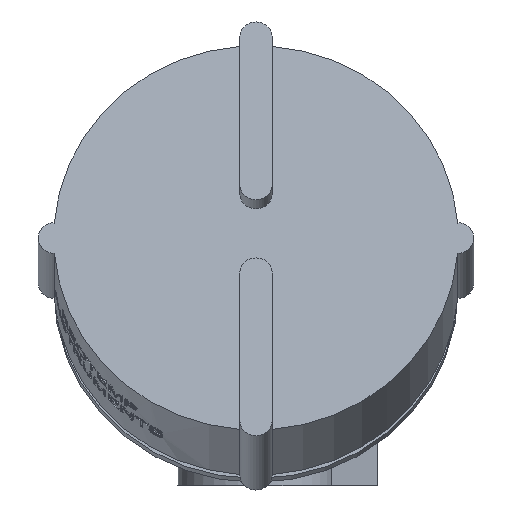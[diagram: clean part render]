
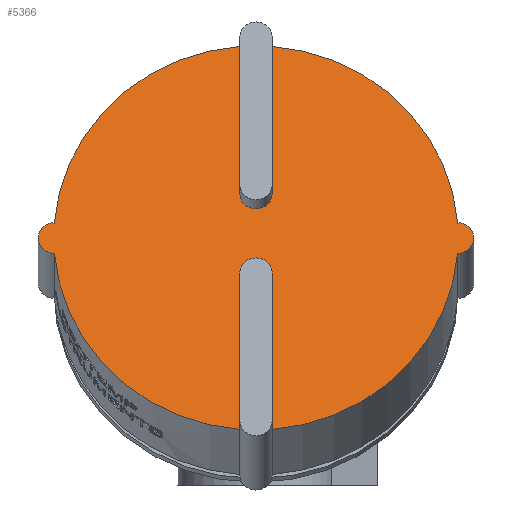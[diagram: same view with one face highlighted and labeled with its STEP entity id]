
A CAD part, top view. The second image highlights one B-rep face of the part: STEP entity #5366.
In plain terms, the highlighted planar face has unit normal (0, 0.312, 0.95).
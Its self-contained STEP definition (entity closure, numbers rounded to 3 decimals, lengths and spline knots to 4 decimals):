
#719=LINE($,#32454,#1073);
#724=LINE($,#32467,#1078);
#727=LINE($,#32477,#1081);
#732=LINE($,#32490,#1086);
#1073=VECTOR($,#6588,1.2896);
#1078=VECTOR($,#6601,1.2896);
#1081=VECTOR($,#6610,1.2896);
#1086=VECTOR($,#6623,1.2896);
#1331=PLANE($,#5719);
#1690=FACE_OUTER_BOUND($,#2043,.T.);
#2043=EDGE_LOOP($,(#4999,#5000,#5001,#5002,#5003,#5004,#5005,#5006,#5007,
#5008,#5009,#5010));
#2160=CIRCLE($,#5653,1.685);
#2163=CIRCLE($,#5661,0.135);
#2166=CIRCLE($,#5668,0.135);
#2186=CIRCLE($,#5707,1.685);
#2187=CIRCLE($,#5710,1.685);
#2188=CIRCLE($,#5712,0.135);
#2189=CIRCLE($,#5714,1.685);
#2190=CIRCLE($,#5718,0.135);
#2658=VERTEX_POINT($,#32437);
#2659=VERTEX_POINT($,#32438);
#2664=VERTEX_POINT($,#32452);
#2666=VERTEX_POINT($,#32459);
#2668=VERTEX_POINT($,#32465);
#2671=VERTEX_POINT($,#32474);
#2672=VERTEX_POINT($,#32476);
#2674=VERTEX_POINT($,#32482);
#2676=VERTEX_POINT($,#32488);
#2702=VERTEX_POINT($,#32604);
#2703=VERTEX_POINT($,#32611);
#2704=VERTEX_POINT($,#32615);
#3406=EDGE_CURVE($,#2658,#2659,#2160,.T.);
#3412=EDGE_CURVE($,#2658,#2664,#719,.T.);
#3416=EDGE_CURVE($,#2664,#2666,#2163,.T.);
#3419=EDGE_CURVE($,#2666,#2668,#724,.T.);
#3423=EDGE_CURVE($,#2672,#2671,#727,.T.);
#3427=EDGE_CURVE($,#2671,#2674,#2166,.T.);
#3430=EDGE_CURVE($,#2674,#2676,#732,.T.);
#3468=EDGE_CURVE($,#2702,#2676,#2186,.T.);
#3472=EDGE_CURVE($,#2672,#2703,#2187,.T.);
#3474=EDGE_CURVE($,#2703,#2704,#2188,.T.);
#3476=EDGE_CURVE($,#2704,#2668,#2189,.T.);
#3478=EDGE_CURVE($,#2659,#2702,#2190,.T.);
#4999=ORIENTED_EDGE($,*,*,#3419,.T.);
#5000=ORIENTED_EDGE($,*,*,#3476,.F.);
#5001=ORIENTED_EDGE($,*,*,#3474,.F.);
#5002=ORIENTED_EDGE($,*,*,#3472,.F.);
#5003=ORIENTED_EDGE($,*,*,#3423,.T.);
#5004=ORIENTED_EDGE($,*,*,#3427,.T.);
#5005=ORIENTED_EDGE($,*,*,#3430,.T.);
#5006=ORIENTED_EDGE($,*,*,#3468,.F.);
#5007=ORIENTED_EDGE($,*,*,#3478,.F.);
#5008=ORIENTED_EDGE($,*,*,#3406,.F.);
#5009=ORIENTED_EDGE($,*,*,#3412,.T.);
#5010=ORIENTED_EDGE($,*,*,#3416,.T.);
#5366=ADVANCED_FACE($,(#1690),#1331,.T.);
#5653=AXIS2_PLACEMENT_3D($,#32439,#6572,#6573);
#5661=AXIS2_PLACEMENT_3D($,#32461,#6595,#6596);
#5668=AXIS2_PLACEMENT_3D($,#32484,#6617,#6618);
#5707=AXIS2_PLACEMENT_3D($,#32605,#6712,#6713);
#5710=AXIS2_PLACEMENT_3D($,#32612,#6721,#6722);
#5712=AXIS2_PLACEMENT_3D($,#32616,#6726,#6727);
#5714=AXIS2_PLACEMENT_3D($,#32619,#6731,#6732);
#5718=AXIS2_PLACEMENT_3D($,#32624,#6740,#6741);
#5719=AXIS2_PLACEMENT_3D($,#32625,#6742,#6743);
#6572=DIRECTION('center_axis',(0.,-0.312,
-0.95));
#6573=DIRECTION('ref_axis',(0.997,0.076,-0.025));
#6588=DIRECTION($,(0.,0.95,-0.312));
#6595=DIRECTION('center_axis',(0.,-0.312,
-0.95));
#6596=DIRECTION('ref_axis',(1.,0.,0.));
#6601=DIRECTION($,(0.,-0.95,0.312));
#6610=DIRECTION($,(0.,-0.95,0.312));
#6617=DIRECTION('center_axis',(0.,-0.312,
-0.95));
#6618=DIRECTION('ref_axis',(-1.,0.,0.));
#6623=DIRECTION($,(0.,0.95,-0.312));
#6712=DIRECTION('center_axis',(0.,-0.312,
-0.95));
#6713=DIRECTION('ref_axis',(0.08,-0.947,0.311));
#6721=DIRECTION('center_axis',(0.,-0.312,
-0.95));
#6722=DIRECTION('ref_axis',(-0.997,-0.076,0.025));
#6726=DIRECTION('center_axis',(0.,-0.312,-0.95));
#6727=DIRECTION('ref_axis',(0.003,0.95,-0.312));
#6731=DIRECTION('center_axis',(0.,-0.312,-0.95));
#6732=DIRECTION('ref_axis',(-0.08,0.947,-0.311));
#6740=DIRECTION('center_axis',(0.,-0.312,-0.95));
#6741=DIRECTION('ref_axis',(-0.003,-0.95,0.312));
#6742=DIRECTION('center_axis',(0.,0.312,
0.95));
#6743=DIRECTION('ref_axis',(1.,0.,0.));
#32437=CARTESIAN_POINT('',(-0.2129,-1.4656,1.7179));
#32438=CARTESIAN_POINT('',(-1.7575,0.0017,1.2355));
#32439=CARTESIAN_POINT('Origin',(-0.0779,0.13,
1.1933));
#32452=CARTESIAN_POINT('',(-0.2129,-0.2405,1.3151));
#32454=CARTESIAN_POINT($,(-0.2129,-0.6678,1.4556));
#32459=CARTESIAN_POINT('',(0.0571,-0.2405,1.3151));
#32461=CARTESIAN_POINT('Origin',(-0.0779,-0.2405,
1.3151));
#32465=CARTESIAN_POINT('',(0.0571,-1.4656,1.7179));
#32467=CARTESIAN_POINT($,(0.0571,-0.0553,1.2542));
#32474=CARTESIAN_POINT('',(0.0571,0.5004,1.0715));
#32476=CARTESIAN_POINT('',(0.0571,1.7255,0.6688));
#32477=CARTESIAN_POINT($,(0.0571,0.9277,0.9311));
#32482=CARTESIAN_POINT('',(-0.2129,0.5004,1.0715));
#32484=CARTESIAN_POINT('Origin',(-0.0779,0.5004,
1.0715));
#32488=CARTESIAN_POINT('',(-0.2129,1.7255,0.6688));
#32490=CARTESIAN_POINT($,(-0.2129,0.3152,1.1324));
#32604=CARTESIAN_POINT('',(-1.7575,0.2582,1.1512));
#32605=CARTESIAN_POINT('Origin',(-0.0779,0.13,
1.1933));
#32611=CARTESIAN_POINT('',(1.6016,0.2582,1.1512));
#32612=CARTESIAN_POINT('Origin',(-0.0779,0.13,
1.1933));
#32615=CARTESIAN_POINT('',(1.6016,0.0017,1.2355));
#32616=CARTESIAN_POINT('Origin',(1.602,0.13,1.1933));
#32619=CARTESIAN_POINT('Origin',(-0.0779,0.13,
1.1933));
#32624=CARTESIAN_POINT('Origin',(-1.7579,0.13,1.1933));
#32625=CARTESIAN_POINT('Origin',(-0.0779,0.13,
1.1933));
